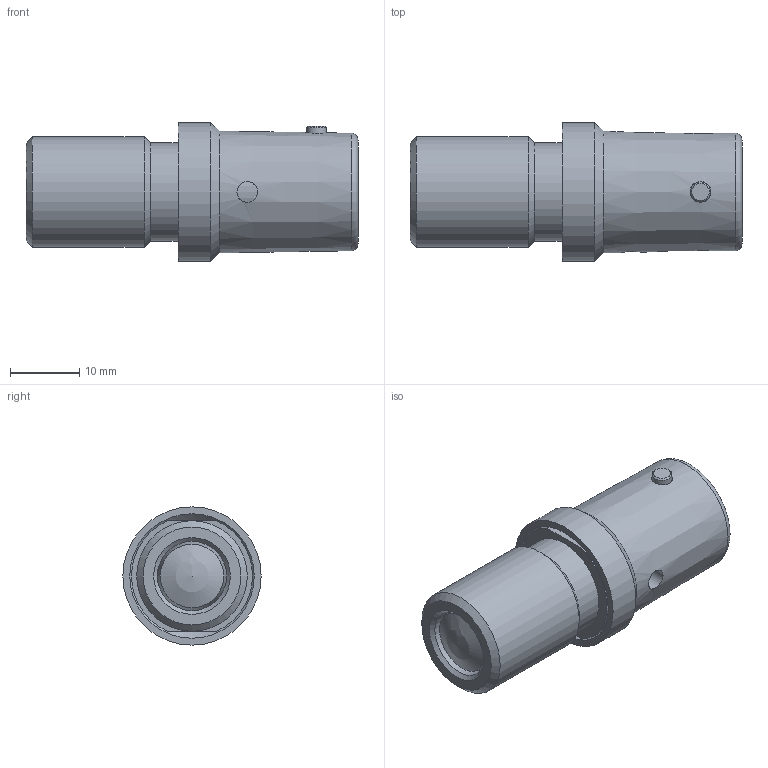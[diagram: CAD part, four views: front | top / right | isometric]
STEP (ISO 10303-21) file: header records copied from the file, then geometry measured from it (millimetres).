
FILE_DESCRIPTION( ( 'STEP AP203' ), '1' );
FILE_NAME( 'C:/Temp/Ganter_Step_05_03_2020/data/3_1/gn816/gn_816_b/Locking plunger GN 816-10-M16x1,5-B (activated).stp', '2020-03-12T08:55:59', ( 'License CC BY-ND 4.0' ), ( 'CADENAS' ), ' ', 'PARTsolutions', ' ' );
FILE_SCHEMA( ( 'CONFIG_CONTROL_DESIGN' ) );
Length unit declared in the file: millimetre
Products named in the file (3): Locking plunger GN 816-10-M16x1,5-B (activated); _GN 816-10-M16x1,5-B(1)-b2; _GN 816-10-M16x1,5-Bb1
Assembly tree (2 placements, depth 2):
  Locking plunger GN 816-10-M16x1,5-B (activated)
    _GN 816-10-M16x1,5-B(1)-b2
    _GN 816-10-M16x1,5-Bb1
Bounding box: 48 x 20 x 20 mm (x, y, z)
Volume: 9543.4 mm3; surface area: 6534.1 mm2
Topology: 2 solids, 2 shells, 40 faces, 79 edges, 49 vertices
Faces by surface type: cylinder 14, plane 12, cone 11, torus 2, sphere 1
Full cylindrical faces by diameter (mm): 2.9 x2, 3 x2, 7 x1, 10 x2, 11.1 x1, 14.2 x1, 16 x1, 18 x1, 20 x1
Entity records: 1288 total; most frequent: CARTESIAN_POINT 462, DIRECTION 160, ORIENTED_EDGE 96, EDGE_LOOP 78, AXIS2_PLACEMENT_3D 77, FACE_OUTER_BOUND 54, EDGE_CURVE 48, VERTEX_POINT 45
